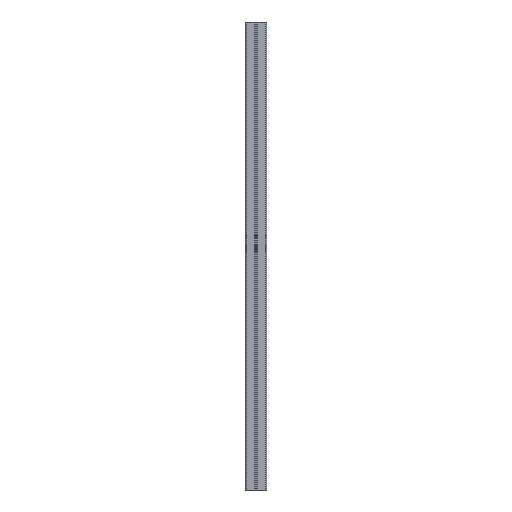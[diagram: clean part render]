
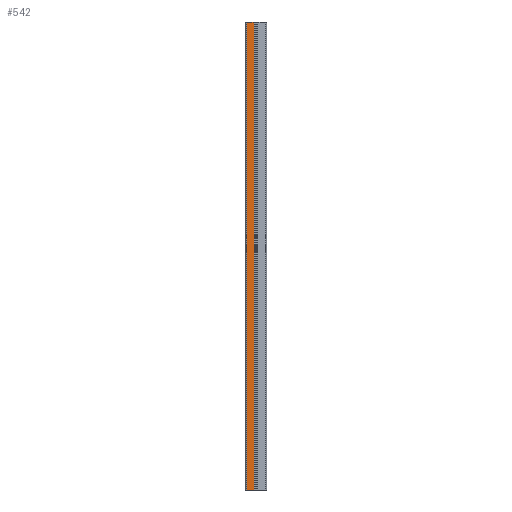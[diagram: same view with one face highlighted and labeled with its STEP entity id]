
A CAD part, front view. The second image highlights one B-rep face of the part: STEP entity #542.
In plain terms, the highlighted planar face has unit normal (0, -1, 0).
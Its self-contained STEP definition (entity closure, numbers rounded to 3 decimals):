
#106 = DIRECTION ( 'NONE',  ( 0., 0., -1. ) ) ;
#217 = VERTEX_POINT ( 'NONE', #2311 ) ;
#314 = CARTESIAN_POINT ( 'NONE',  ( -19.5, -22.5, -500. ) ) ;
#390 = VECTOR ( 'NONE', #6082, 1000. ) ;
#478 = EDGE_CURVE ( 'NONE', #6105, #1312, #5965, .T. ) ;
#486 = LINE ( 'NONE', #6524, #390 ) ;
#542 = ADVANCED_FACE ( 'NONE', ( #692 ), #2770, .T. ) ;
#549 = ORIENTED_EDGE ( 'NONE', *, *, #5009, .T. ) ;
#692 = FACE_OUTER_BOUND ( 'NONE', #738, .T. ) ;
#738 = EDGE_LOOP ( 'NONE', ( #6543, #549, #960, #3314 ) ) ;
#960 = ORIENTED_EDGE ( 'NONE', *, *, #1382, .T. ) ;
#971 = VECTOR ( 'NONE', #3772, 1000. ) ;
#1080 = DIRECTION ( 'NONE',  ( 0., -1., 0. ) ) ;
#1312 = VERTEX_POINT ( 'NONE', #5507 ) ;
#1382 = EDGE_CURVE ( 'NONE', #3614, #6105, #486, .T. ) ;
#1447 = CARTESIAN_POINT ( 'NONE',  ( -4.2, -22.5, -500. ) ) ;
#1785 = CARTESIAN_POINT ( 'NONE',  ( -19.5, -22.5, -500. ) ) ;
#1807 = DIRECTION ( 'NONE',  ( 1., 0., 0. ) ) ;
#1879 = LINE ( 'NONE', #1918, #5793 ) ;
#1918 = CARTESIAN_POINT ( 'NONE',  ( -22.5, -22.5, 500. ) ) ;
#2311 = CARTESIAN_POINT ( 'NONE',  ( -19.5, -22.5, 500. ) ) ;
#2770 = PLANE ( 'NONE',  #5896 ) ;
#3314 = ORIENTED_EDGE ( 'NONE', *, *, #478, .T. ) ;
#3341 = CARTESIAN_POINT ( 'NONE',  ( -22.5, -22.5, -500. ) ) ;
#3532 = CARTESIAN_POINT ( 'NONE',  ( -4.2, -22.5, -500. ) ) ;
#3614 = VERTEX_POINT ( 'NONE', #314 ) ;
#3772 = DIRECTION ( 'NONE',  ( 0., 0., 1. ) ) ;
#3930 = LINE ( 'NONE', #1785, #6709 ) ;
#4333 = EDGE_CURVE ( 'NONE', #217, #1312, #1879, .T. ) ;
#4401 = DIRECTION ( 'NONE',  ( 0., 0., -1. ) ) ;
#5009 = EDGE_CURVE ( 'NONE', #217, #3614, #3930, .T. ) ;
#5507 = CARTESIAN_POINT ( 'NONE',  ( -4.2, -22.5, 500. ) ) ;
#5793 = VECTOR ( 'NONE', #1807, 1000. ) ;
#5896 = AXIS2_PLACEMENT_3D ( 'NONE', #3341, #1080, #106 ) ;
#5965 = LINE ( 'NONE', #1447, #971 ) ;
#6082 = DIRECTION ( 'NONE',  ( 1., 0., 0. ) ) ;
#6105 = VERTEX_POINT ( 'NONE', #3532 ) ;
#6524 = CARTESIAN_POINT ( 'NONE',  ( -22.5, -22.5, -500. ) ) ;
#6543 = ORIENTED_EDGE ( 'NONE', *, *, #4333, .F. ) ;
#6709 = VECTOR ( 'NONE', #4401, 1000. ) ;
